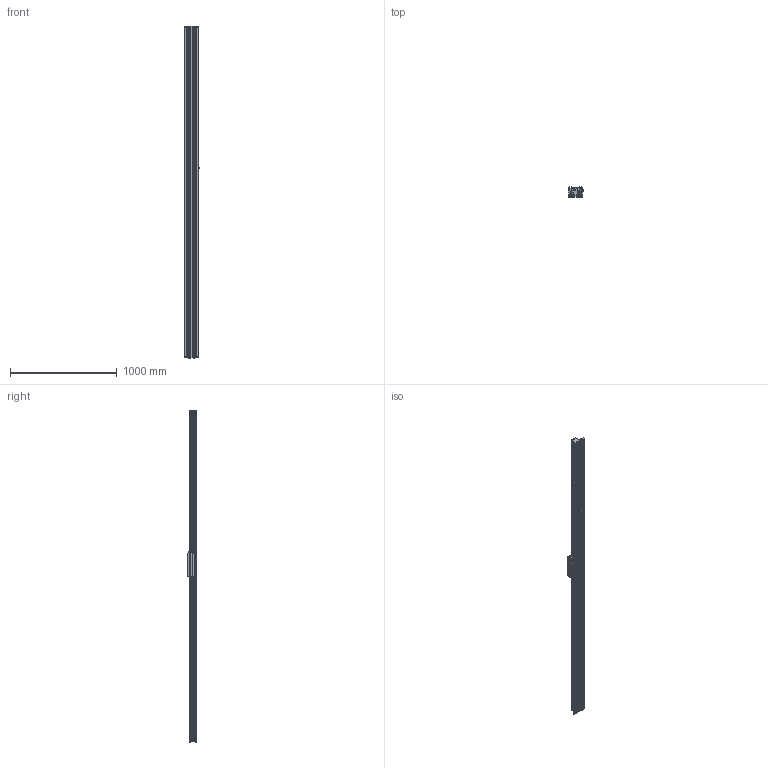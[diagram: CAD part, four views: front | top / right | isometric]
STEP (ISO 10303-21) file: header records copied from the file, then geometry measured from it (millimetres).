
FILE_DESCRIPTION (( 'STEP AP214' ), '1' );
FILE_NAME ('SINADRIVES Linear motor stage MLL20200XS-XX-1-0-ST-00-03108.STEP', '2015-07-06T10:03:35', ( 'Tecnico' ), ( '' ), 'SwSTEP 2.0', 'SolidWorks 2009', '' );
FILE_SCHEMA (( 'AUTOMOTIVE_DESIGN' ));
Length unit declared in the file: millimetre
Products named in the file (7): SINADRIVES PROFILE MLL2XXXX-3092; SINADRIVES CARRIAGE MLL20200XS-1; CARRIAGE MLL20200; Connector power+signal Y-tec 45; SINADRIVES ENDBLOCK MLL2; SINADRIVES ENDBLOCK MLL2-2; SINADRIVES Linear motor stage MLL20200XS-XX-1-0-ST-00-03108
Assembly tree (6 placements, depth 3):
  SINADRIVES Linear motor stage MLL20200XS-XX-1-0-ST-00-03108
    SINADRIVES ENDBLOCK MLL2-2
    SINADRIVES ENDBLOCK MLL2
    SINADRIVES CARRIAGE MLL20200XS-1
      CARRIAGE MLL20200
      Connector power+signal Y-tec 45
    SINADRIVES PROFILE MLL2XXXX-3092
Bounding box: 144.43 x 91 x 3116.8 mm (x, y, z)
Volume: 13635731.7 mm3; surface area: 2356045.1 mm2
Topology: 2 solids, 42 shells, 950 faces, 2640 edges, 1730 vertices
Faces by surface type: plane 445, cylinder 302, bspline 79, cone 70, torus 42, sphere 12
Entity records: 40587 total; most frequent: CARTESIAN_POINT 8656, ORIENTED_EDGE 5024, DIRECTION 4947, EDGE_CURVE 2622, AXIS2_PLACEMENT_3D 1781, VERTEX_POINT 1730, LINE 1385, VECTOR 1385
